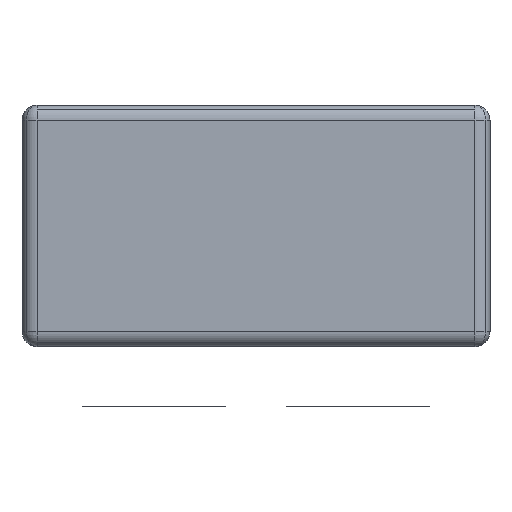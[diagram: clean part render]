
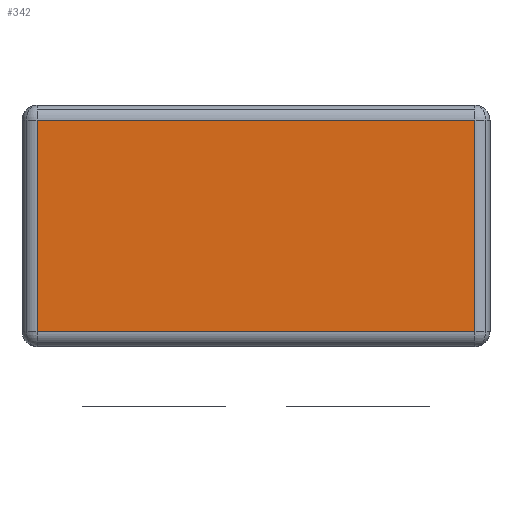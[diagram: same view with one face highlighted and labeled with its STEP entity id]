
A CAD part, front view. The second image highlights one B-rep face of the part: STEP entity #342.
In plain terms, the highlighted planar face has unit normal (0, -1, 0).
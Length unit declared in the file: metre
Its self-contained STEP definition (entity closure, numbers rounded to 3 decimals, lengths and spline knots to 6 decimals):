
#342=ADVANCED_FACE('0:402',(#888),#889,.T.);
#888=FACE_OUTER_BOUND('',#1517,.T.);
#889=PLANE('',#1518);
#1517=EDGE_LOOP('',(#3903,#3904,#3905,#3906));
#1518=AXIS2_PLACEMENT_3D('',#3907,#3908,#3909);
#3903=ORIENTED_EDGE('',*,*,#4159,.F.);
#3904=ORIENTED_EDGE('',*,*,#4773,.F.);
#3905=ORIENTED_EDGE('',*,*,#4774,.F.);
#3906=ORIENTED_EDGE('',*,*,#4133,.F.);
#3907=CARTESIAN_POINT('',(0.00775,0.0,0.0));
#3908=DIRECTION('',(0.0,-1.0,0.0));
#3909=DIRECTION('',(1.0,0.0,0.0));
#4133=EDGE_CURVE('4:33',#4889,#4891,#4892,.T.);
#4159=EDGE_CURVE('4:530',#4911,#4889,#4936,.T.);
#4773=EDGE_CURVE('4:24',#4868,#4911,#5925,.T.);
#4774=EDGE_CURVE('4:497',#4891,#4868,#5926,.T.);
#4868=VERTEX_POINT('',#6073);
#4889=VERTEX_POINT('',#6101);
#4891=VERTEX_POINT('',#6103);
#4892=LINE('',#6104,#6105);
#4911=VERTEX_POINT('',#6128);
#4936=LINE('',#6158,#6159);
#5925=LINE('',#7644,#7645);
#5926=LINE('',#7646,#7647);
#6073=CARTESIAN_POINT('',(0.015,0.0,0.0025));
#6101=CARTESIAN_POINT('',(0.0005,0.0,-0.0045));
#6103=CARTESIAN_POINT('',(0.0005,0.0,0.0025));
#6104=CARTESIAN_POINT('',(0.0005,0.0,0.0));
#6105=VECTOR('',#7848,1.0);
#6128=CARTESIAN_POINT('',(0.015,0.0,-0.0045));
#6158=CARTESIAN_POINT('',(0.003875,0.0,-0.0045));
#6159=VECTOR('',#7906,1.0);
#7644=CARTESIAN_POINT('',(0.015,0.0,0.0));
#7645=VECTOR('',#8882,1.0);
#7646=CARTESIAN_POINT('',(0.003875,0.0,0.0025));
#7647=VECTOR('',#8883,1.0);
#7848=DIRECTION('',(0.0,0.0,1.0));
#7906=DIRECTION('',(-1.0,0.0,0.0));
#8882=DIRECTION('',(0.0,-0.0,-1.0));
#8883=DIRECTION('',(1.0,-0.0,-0.0));
